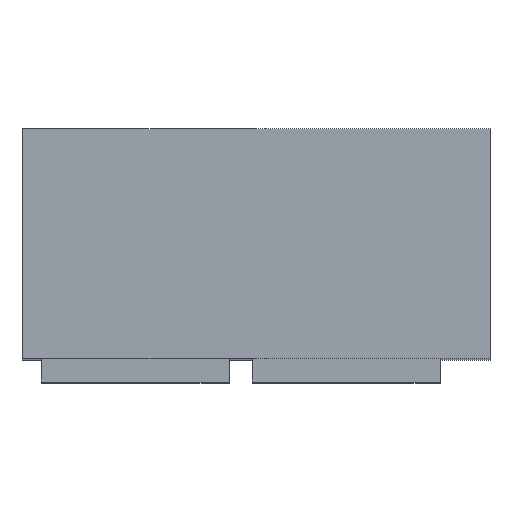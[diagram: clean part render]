
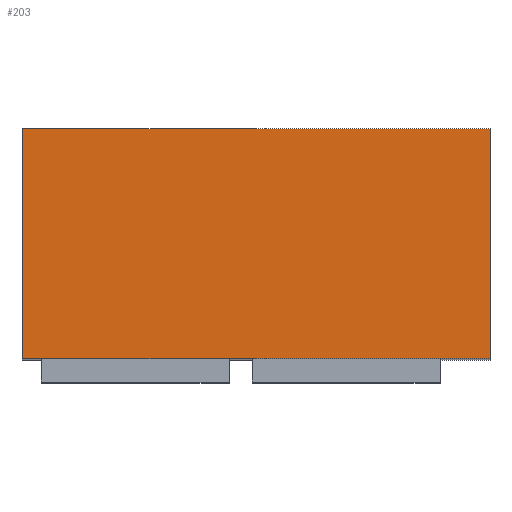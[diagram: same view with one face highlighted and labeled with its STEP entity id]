
A CAD part, top view. The second image highlights one B-rep face of the part: STEP entity #203.
In plain terms, the highlighted planar face has unit normal (0, 0, 1).
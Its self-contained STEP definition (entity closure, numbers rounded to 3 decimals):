
#74 = VERTEX_POINT('',#75);
#75 = CARTESIAN_POINT('',(6150.,820.,990.));
#90 = VERTEX_POINT('',#91);
#91 = CARTESIAN_POINT('',(6150.,1420.,990.));
#97 = EDGE_CURVE('',#74,#90,#98,.T.);
#98 = LINE('',#99,#100);
#99 = CARTESIAN_POINT('',(6150.,820.,990.));
#100 = VECTOR('',#101,1.);
#101 = DIRECTION('',(-0.,1.,0.));
#114 = VERTEX_POINT('',#115);
#115 = CARTESIAN_POINT('',(7370.,820.,990.));
#130 = VERTEX_POINT('',#131);
#131 = CARTESIAN_POINT('',(7370.,1420.,990.));
#137 = EDGE_CURVE('',#114,#130,#138,.T.);
#138 = LINE('',#139,#140);
#139 = CARTESIAN_POINT('',(7370.,820.,990.));
#140 = VECTOR('',#141,1.);
#141 = DIRECTION('',(-0.,1.,0.));
#158 = EDGE_CURVE('',#74,#114,#159,.T.);
#159 = LINE('',#160,#161);
#160 = CARTESIAN_POINT('',(6150.,820.,990.));
#161 = VECTOR('',#162,1.);
#162 = DIRECTION('',(1.,0.,-0.));
#180 = EDGE_CURVE('',#90,#130,#181,.T.);
#181 = LINE('',#182,#183);
#182 = CARTESIAN_POINT('',(6150.,1420.,990.));
#183 = VECTOR('',#184,1.);
#184 = DIRECTION('',(1.,0.,-0.));
#203 = ADVANCED_FACE('',(#204),#210,.T.);
#204 = FACE_BOUND('',#205,.T.);
#205 = EDGE_LOOP('',(#206,#207,#208,#209));
#206 = ORIENTED_EDGE('',*,*,#97,.F.);
#207 = ORIENTED_EDGE('',*,*,#158,.T.);
#208 = ORIENTED_EDGE('',*,*,#137,.T.);
#209 = ORIENTED_EDGE('',*,*,#180,.F.);
#210 = PLANE('',#211);
#211 = AXIS2_PLACEMENT_3D('',#212,#213,#214);
#212 = CARTESIAN_POINT('',(6150.,820.,990.));
#213 = DIRECTION('',(0.,0.,1.));
#214 = DIRECTION('',(1.,0.,-0.));
